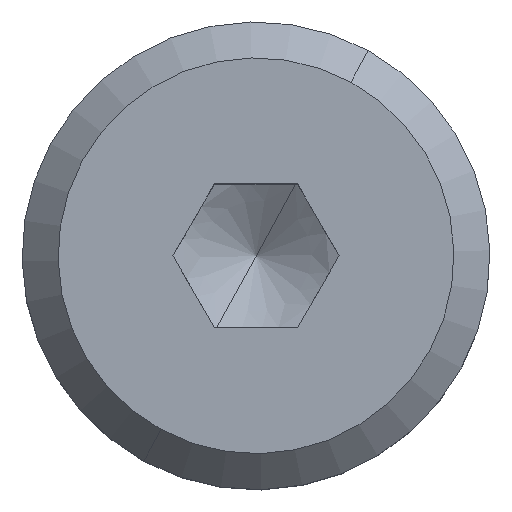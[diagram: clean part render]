
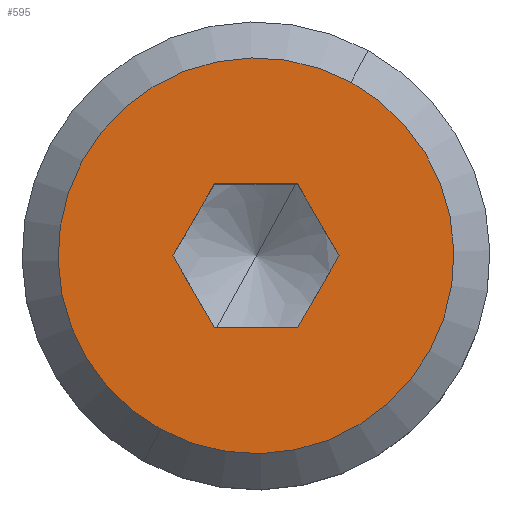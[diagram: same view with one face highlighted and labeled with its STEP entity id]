
A CAD part, top view. The second image highlights one B-rep face of the part: STEP entity #595.
In plain terms, the highlighted planar face has unit normal (0, 0, 1).
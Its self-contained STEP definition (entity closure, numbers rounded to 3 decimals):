
#459=CARTESIAN_POINT('Vertex',(-2.637,-4.827,5.5)) ;
#466=CARTESIAN_POINT('Vertex',(2.637,4.827,5.5)) ;
#469=CARTESIAN_POINT('Axis2P3D Location',(0.,0.,5.5)) ;
#481=CARTESIAN_POINT('Axis2P3D Location',(0.,0.,5.5)) ;
#536=CARTESIAN_POINT('Axis2P3D Location',(0.,0.,5.5)) ;
#545=CARTESIAN_POINT('Line Origine',(1.732,-1.,5.5)) ;
#549=CARTESIAN_POINT('Vertex',(2.309,0.,5.5)) ;
#551=CARTESIAN_POINT('Vertex',(1.155,-2.,5.5)) ;
#554=CARTESIAN_POINT('Line Origine',(0.,-2.,5.5)) ;
#558=CARTESIAN_POINT('Vertex',(-1.155,-2.,5.5)) ;
#561=CARTESIAN_POINT('Line Origine',(-1.732,-1.,5.5)) ;
#565=CARTESIAN_POINT('Vertex',(-2.309,0.,5.5)) ;
#568=CARTESIAN_POINT('Line Origine',(-1.732,1.,5.5)) ;
#572=CARTESIAN_POINT('Vertex',(-1.155,2.,5.5)) ;
#575=CARTESIAN_POINT('Line Origine',(0.,2.,5.5)) ;
#579=CARTESIAN_POINT('Vertex',(1.155,2.,5.5)) ;
#582=CARTESIAN_POINT('Line Origine',(1.732,1.,5.5)) ;
#547=VECTOR('Line Direction',#546,1.) ;
#556=VECTOR('Line Direction',#555,1.) ;
#563=VECTOR('Line Direction',#562,1.) ;
#570=VECTOR('Line Direction',#569,1.) ;
#577=VECTOR('Line Direction',#576,1.) ;
#584=VECTOR('Line Direction',#583,1.) ;
#470=DIRECTION('Axis2P3D Direction',(0.,0.,-1.)) ;
#482=DIRECTION('Axis2P3D Direction',(0.,0.,-1.)) ;
#537=DIRECTION('Axis2P3D Direction',(0.,0.,-1.)) ;
#538=DIRECTION('Axis2P3D XDirection',(0.,1.,0.)) ;
#546=DIRECTION('Vector Direction',(-0.5,-0.866,0.)) ;
#555=DIRECTION('Vector Direction',(-1.,0.,0.)) ;
#562=DIRECTION('Vector Direction',(-0.5,0.866,0.)) ;
#569=DIRECTION('Vector Direction',(0.5,0.866,0.)) ;
#576=DIRECTION('Vector Direction',(1.,0.,0.)) ;
#583=DIRECTION('Vector Direction',(0.5,-0.866,0.)) ;
#471=AXIS2_PLACEMENT_3D('Circle Axis2P3D',#469,#470,$) ;
#483=AXIS2_PLACEMENT_3D('Circle Axis2P3D',#481,#482,$) ;
#539=AXIS2_PLACEMENT_3D('Plane Axis2P3D',#536,#537,#538) ;
#548=LINE('Line',#545,#547) ;
#557=LINE('Line',#554,#556) ;
#564=LINE('Line',#561,#563) ;
#571=LINE('Line',#568,#570) ;
#578=LINE('Line',#575,#577) ;
#585=LINE('Line',#582,#584) ;
#472=CIRCLE('generated circle',#471,5.5) ;
#484=CIRCLE('generated circle',#483,5.5) ;
#540=PLANE('',#539) ;
#594=FACE_BOUND('',#587,.T.) ;
#473=EDGE_CURVE('',#467,#460,#472,.T.) ;
#485=EDGE_CURVE('',#460,#467,#484,.T.) ;
#553=EDGE_CURVE('',#550,#552,#548,.T.) ;
#560=EDGE_CURVE('',#552,#559,#557,.T.) ;
#567=EDGE_CURVE('',#559,#566,#564,.T.) ;
#574=EDGE_CURVE('',#566,#573,#571,.T.) ;
#581=EDGE_CURVE('',#573,#580,#578,.T.) ;
#586=EDGE_CURVE('',#580,#550,#585,.T.) ;
#542=ORIENTED_EDGE('',*,*,#473,.F.) ;
#543=ORIENTED_EDGE('',*,*,#485,.F.) ;
#588=ORIENTED_EDGE('',*,*,#553,.T.) ;
#589=ORIENTED_EDGE('',*,*,#560,.T.) ;
#590=ORIENTED_EDGE('',*,*,#567,.T.) ;
#591=ORIENTED_EDGE('',*,*,#574,.T.) ;
#592=ORIENTED_EDGE('',*,*,#581,.T.) ;
#593=ORIENTED_EDGE('',*,*,#586,.T.) ;
#541=EDGE_LOOP('',(#542,#543)) ;
#587=EDGE_LOOP('',(#588,#589,#590,#591,#592,#593)) ;
#460=VERTEX_POINT('',#459) ;
#467=VERTEX_POINT('',#466) ;
#550=VERTEX_POINT('',#549) ;
#552=VERTEX_POINT('',#551) ;
#559=VERTEX_POINT('',#558) ;
#566=VERTEX_POINT('',#565) ;
#573=VERTEX_POINT('',#572) ;
#580=VERTEX_POINT('',#579) ;
#595=ADVANCED_FACE('Body.2',(#544,#594),#540,.F.) ;
#544=FACE_OUTER_BOUND('',#541,.T.) ;
